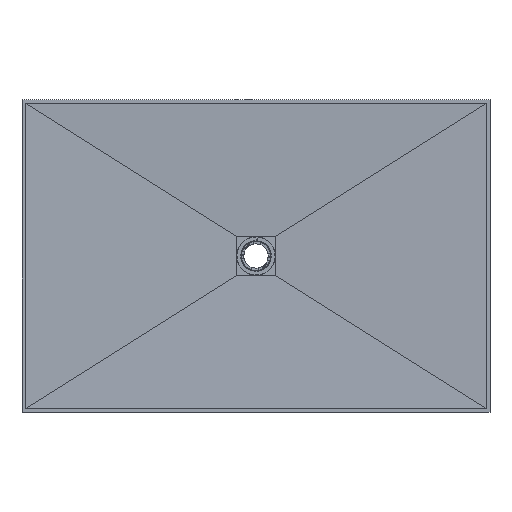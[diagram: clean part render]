
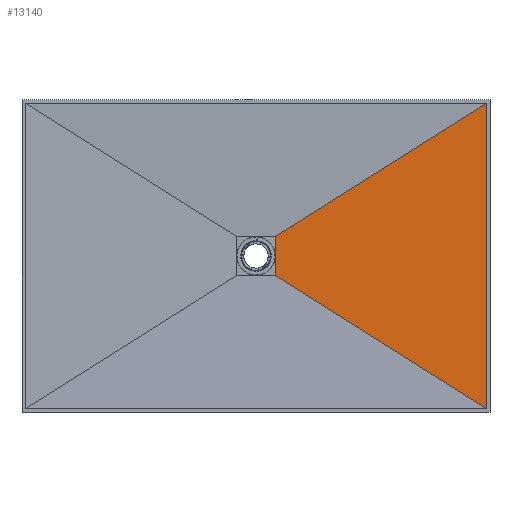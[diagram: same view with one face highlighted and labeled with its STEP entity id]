
A CAD part, top view. The second image highlights one B-rep face of the part: STEP entity #13140.
In plain terms, the highlighted planar face has unit normal (-0.021, 0, 1).
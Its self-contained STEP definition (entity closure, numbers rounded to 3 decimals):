
#2348=FACE_OUTER_BOUND('',#3093,.T.);
#3093=EDGE_LOOP('',(#8808,#8809,#8810,#8811));
#3902=LINE('',#18662,#4523);
#3908=LINE('',#18674,#4529);
#3910=LINE('',#18677,#4531);
#3911=LINE('',#18679,#4532);
#4523=VECTOR('',#15362,10.);
#4529=VECTOR('',#15370,10.);
#4531=VECTOR('',#15374,10.);
#4532=VECTOR('',#15377,10.);
#5139=VERTEX_POINT('',#18659);
#5140=VERTEX_POINT('',#18661);
#5143=VERTEX_POINT('',#18668);
#5145=VERTEX_POINT('',#18672);
#6605=EDGE_CURVE('',#5139,#5140,#3902,.F.);
#6611=EDGE_CURVE('',#5143,#5145,#3908,.F.);
#6613=EDGE_CURVE('',#5139,#5143,#3910,.T.);
#6614=EDGE_CURVE('',#5140,#5145,#3911,.T.);
#8808=ORIENTED_EDGE('',*,*,#6605,.F.);
#8809=ORIENTED_EDGE('',*,*,#6613,.T.);
#8810=ORIENTED_EDGE('',*,*,#6611,.T.);
#8811=ORIENTED_EDGE('',*,*,#6614,.F.);
#13070=PLANE('',#13978);
#13140=ADVANCED_FACE('',(#2348),#13070,.F.);
#13978=AXIS2_PLACEMENT_3D('',#18678,#15375,#15376);
#15362=DIRECTION('',(0.,1.,0.));
#15370=DIRECTION('',(0.,1.,0.));
#15374=DIRECTION('',(-0.846,-0.533,-0.018));
#15375=DIRECTION('center_axis',(0.021,0.,
-1.));
#15376=DIRECTION('ref_axis',(-1.,0.,-0.021));
#15377=DIRECTION('',(-0.846,0.533,-0.018));
#18659=CARTESIAN_POINT('',(900.287,426.279,20.));
#18661=CARTESIAN_POINT('',(900.287,-767.279,20.));
#18662=CARTESIAN_POINT('',(900.287,129.4,20.));
#18668=CARTESIAN_POINT('',(75.487,-94.021,2.5));
#18672=CARTESIAN_POINT('',(75.487,-246.979,2.5));
#18674=CARTESIAN_POINT('',(75.487,127.9,2.5));
#18677=CARTESIAN_POINT('',(255.757,19.697,6.325));
#18678=CARTESIAN_POINT('Origin',(900.273,426.3,20.));
#18679=CARTESIAN_POINT('',(631.067,-597.45,14.288));
